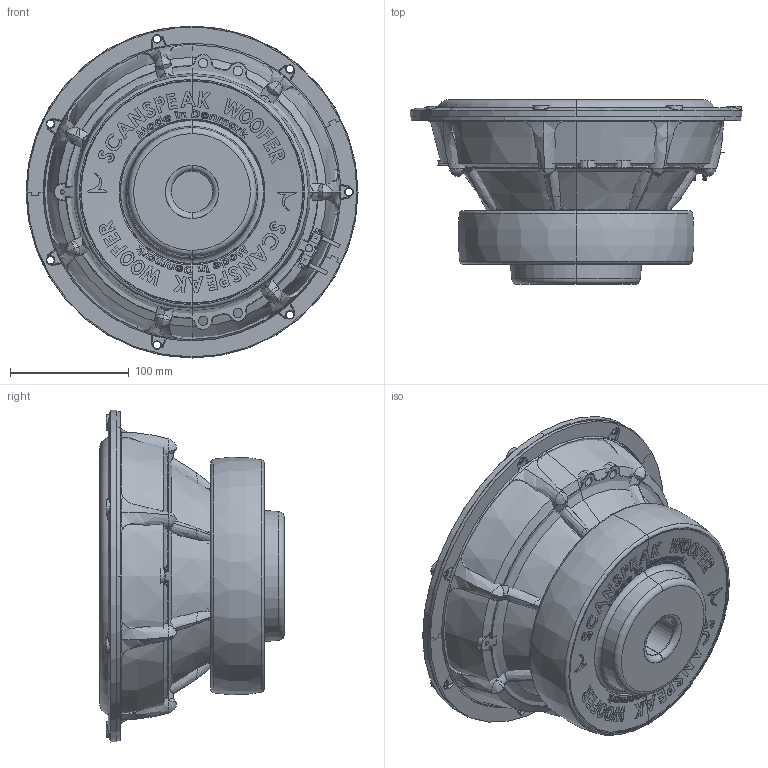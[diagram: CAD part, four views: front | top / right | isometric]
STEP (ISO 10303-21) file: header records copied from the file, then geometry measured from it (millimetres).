
FILE_DESCRIPTION (( 'STEP AP214' ), '1' );
FILE_NAME ('28W-4878T00.STEP', '2020-12-17T11:58:45', ( '' ), ( '' ), 'SwSTEP 2.0', 'SolidWorks 2019', '' );
FILE_SCHEMA (( 'AUTOMOTIVE_DESIGN' ));
Length unit declared in the file: millimetre
Products named in the file (1): 28W-4878T00
Bounding box: 279.88 x 155.6 x 279.88 mm (x, y, z)
Surface area: 670683.8 mm2 (no closed solid volume)
Topology: 0 solids, 33 shells, 1531 faces, 5438 edges, 3702 vertices
Faces by surface type: bspline 474, plane 402, cone 237, torus 221, cylinder 188, sphere 9
Entity records: 110626 total; most frequent: CARTESIAN_POINT 55063, ORIENTED_EDGE 8760, DIRECTION 5930, EDGE_CURVE 5407, VERTEX_POINT 3695, B_SPLINE_CURVE_WITH_KNOTS 2831, AXIS2_PLACEMENT_3D 2306, EDGE_LOOP 1679
